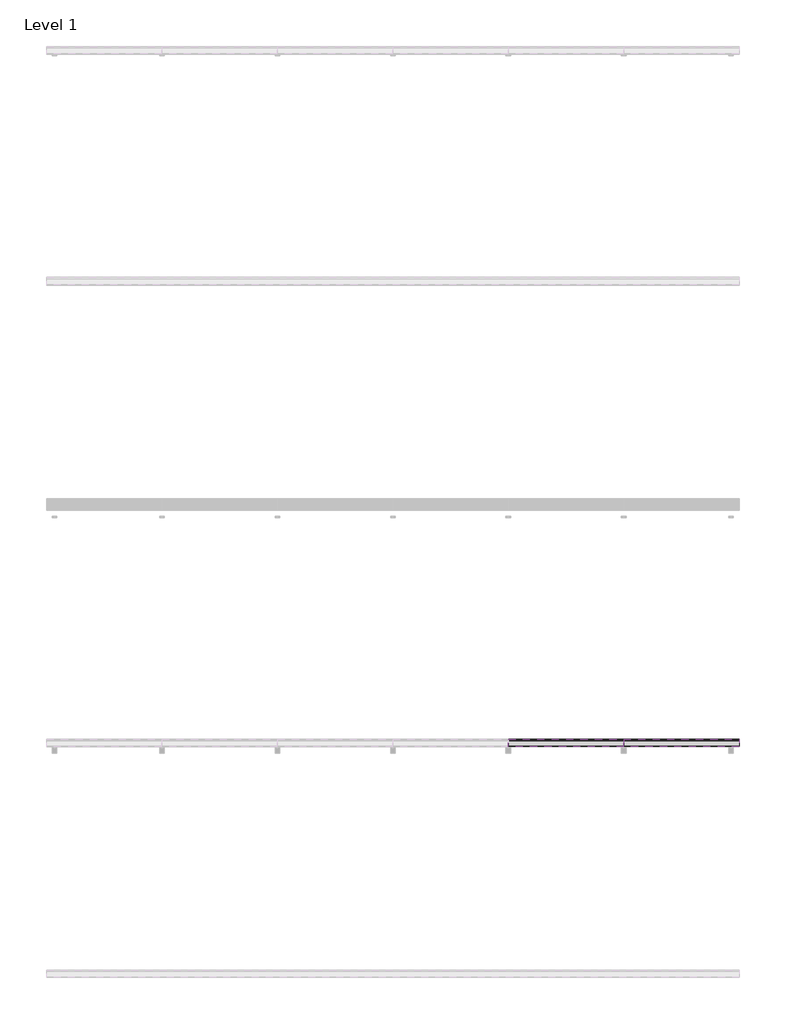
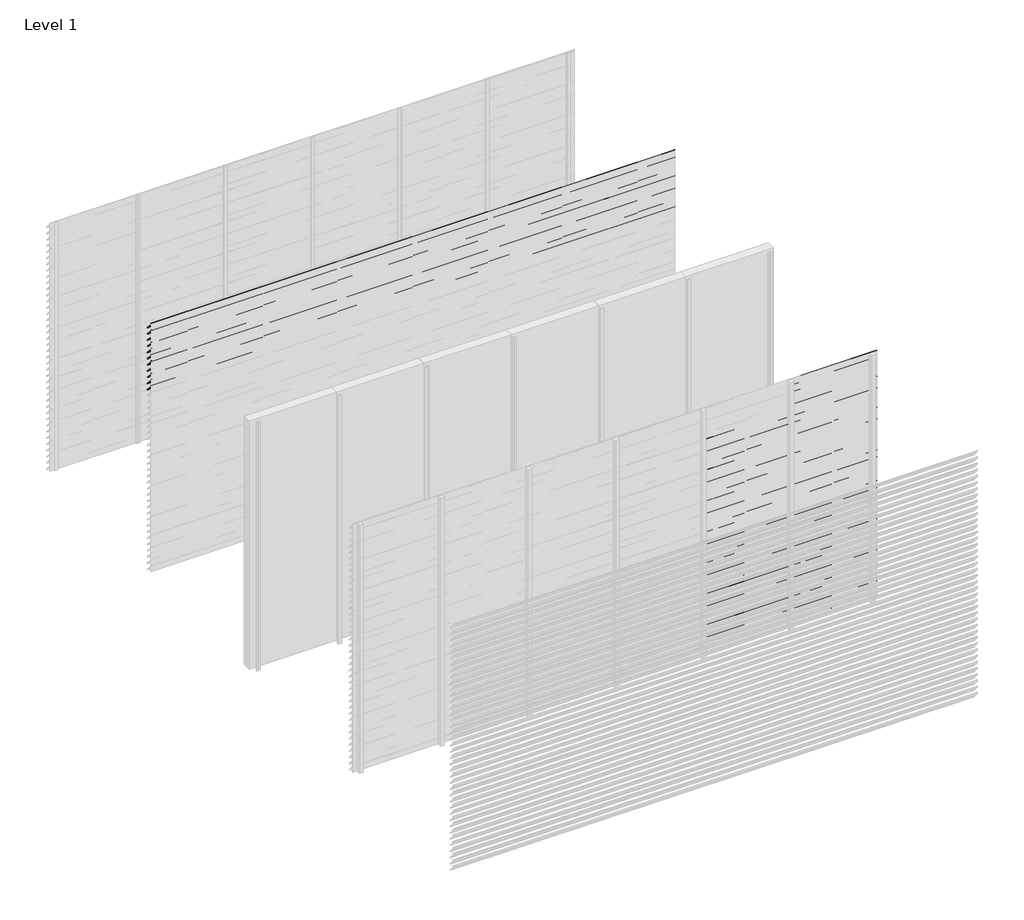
# One storey, part 19 of 35: 86 proxies.
"""IFC4 building model written with IfcOpenShell, lengths in millimetres."""

from ifc_helpers import new_model, si_unit, frame, origin, place, context, project, spatial, polyline, outline, extrude, element, save

model = new_model("IFC4")

# Units and contexts
model_context = context("Model", 3, world=origin())
ifc_project = project(units=[si_unit("LENGTHUNIT", "METRE", prefix="MILLI")], contexts=[model_context])

# Site, building, storey
site = spatial("IfcSite", under=ifc_project)
building = spatial("IfcBuilding", under=site)
storey = spatial("IfcBuildingStorey", under=building, Name="Level 1", Elevation=0.0)

# Proxies
placement = place(None, origin())
element("IfcBuildingElementProxy", 1, Name="Wall Sweeps", at=placement, inside=storey, context=model_context, shape_type="SweptSolid", body=[
    extrude(outline(polyline([(-25996.5, 3000.0), (-25996.5, 2985.5463701), (-25934.5, 2913.9330051), (-25934.5, 2910.4), (-25936.0, 2910.4), (-25936.0, 2913.3738975), (-25998.0, 2984.9872626), (-25998.0, 3000.0), (-25996.5, 3000.0)])), frame((0.0, 0.0, 0.0), z_axis=(1.0, 0.0, 0.0), x_axis=(0.0, 1.0, 0.0)), (0.0, 0.0, 1.0), 6000.0),
])
element("IfcBuildingElementProxy", 2, Name="Wall Sweeps", at=placement, inside=storey, context=model_context, shape_type="SweptSolid", body=[
    extrude(outline(polyline([(-25996.5, 2925.0), (-25996.5, 2910.5463701), (-25934.5, 2838.9330051), (-25934.5, 2835.4), (-25936.0, 2835.4), (-25936.0, 2838.3738975), (-25998.0, 2909.9872626), (-25998.0, 2925.0), (-25996.5, 2925.0)])), frame((0.0, 0.0, 0.0), z_axis=(1.0, 0.0, 0.0), x_axis=(0.0, 1.0, 0.0)), (0.0, 0.0, 1.0), 6000.0),
])
element("IfcBuildingElementProxy", 3, Name="Wall Sweeps", at=placement, inside=storey, context=model_context, shape_type="SweptSolid", body=[
    extrude(outline(polyline([(-25996.5, 2850.0), (-25996.5, 2835.5463701), (-25934.5, 2763.9330051), (-25934.5, 2760.4), (-25936.0, 2760.4), (-25936.0, 2763.3738975), (-25998.0, 2834.9872626), (-25998.0, 2850.0), (-25996.5, 2850.0)])), frame((0.0, 0.0, 0.0), z_axis=(1.0, 0.0, 0.0), x_axis=(0.0, 1.0, 0.0)), (0.0, 0.0, 1.0), 6000.0),
])
element("IfcBuildingElementProxy", 4, Name="Wall Sweeps", at=placement, inside=storey, context=model_context, shape_type="SweptSolid", body=[
    extrude(outline(polyline([(-25996.5, 2775.0), (-25996.5, 2760.5463701), (-25934.5, 2688.9330051), (-25934.5, 2685.4), (-25936.0, 2685.4), (-25936.0, 2688.3738975), (-25998.0, 2759.9872626), (-25998.0, 2775.0), (-25996.5, 2775.0)])), frame((0.0, 0.0, 0.0), z_axis=(1.0, 0.0, 0.0), x_axis=(0.0, 1.0, 0.0)), (0.0, 0.0, 1.0), 6000.0),
])
element("IfcBuildingElementProxy", 5, Name="Wall Sweeps", at=placement, inside=storey, context=model_context, shape_type="SweptSolid", body=[
    extrude(outline(polyline([(-25996.5, 2700.0), (-25996.5, 2685.5463701), (-25934.5, 2613.9330051), (-25934.5, 2610.4), (-25936.0, 2610.4), (-25936.0, 2613.3738975), (-25998.0, 2684.9872626), (-25998.0, 2700.0), (-25996.5, 2700.0)])), frame((0.0, 0.0, 0.0), z_axis=(1.0, 0.0, 0.0), x_axis=(0.0, 1.0, 0.0)), (0.0, 0.0, 1.0), 6000.0),
])
element("IfcBuildingElementProxy", 6, Name="Wall Sweeps", at=placement, inside=storey, context=model_context, shape_type="SweptSolid", body=[
    extrude(outline(polyline([(-25996.5, 2625.0), (-25996.5, 2610.5463701), (-25934.5, 2538.9330051), (-25934.5, 2535.4), (-25936.0, 2535.4), (-25936.0, 2538.3738975), (-25998.0, 2609.9872626), (-25998.0, 2625.0), (-25996.5, 2625.0)])), frame((0.0, 0.0, 0.0), z_axis=(1.0, 0.0, 0.0), x_axis=(0.0, 1.0, 0.0)), (0.0, 0.0, 1.0), 6000.0),
])
element("IfcBuildingElementProxy", 7, Name="Wall Sweeps", at=placement, inside=storey, context=model_context, shape_type="SweptSolid", body=[
    extrude(outline(polyline([(-25996.5, 2550.0), (-25996.5, 2535.5463701), (-25934.5, 2463.9330051), (-25934.5, 2460.4), (-25936.0, 2460.4), (-25936.0, 2463.3738975), (-25998.0, 2534.9872626), (-25998.0, 2550.0), (-25996.5, 2550.0)])), frame((0.0, 0.0, 0.0), z_axis=(1.0, 0.0, 0.0), x_axis=(0.0, 1.0, 0.0)), (0.0, 0.0, 1.0), 6000.0),
])
element("IfcBuildingElementProxy", 8, Name="Wall Sweeps", at=placement, inside=storey, context=model_context, shape_type="SweptSolid", body=[
    extrude(outline(polyline([(-25996.5, 2475.0), (-25996.5, 2460.5463701), (-25934.5, 2388.9330051), (-25934.5, 2385.4), (-25936.0, 2385.4), (-25936.0, 2388.3738975), (-25998.0, 2459.9872626), (-25998.0, 2475.0), (-25996.5, 2475.0)])), frame((0.0, 0.0, 0.0), z_axis=(1.0, 0.0, 0.0), x_axis=(0.0, 1.0, 0.0)), (0.0, 0.0, 1.0), 6000.0),
])
element("IfcBuildingElementProxy", 9, Name="Wall Sweeps", at=placement, inside=storey, context=model_context, shape_type="SweptSolid", body=[
    extrude(outline(polyline([(-25996.5, 2400.0), (-25996.5, 2385.5463701), (-25934.5, 2313.9330051), (-25934.5, 2310.4), (-25936.0, 2310.4), (-25936.0, 2313.3738975), (-25998.0, 2384.9872626), (-25998.0, 2400.0), (-25996.5, 2400.0)])), frame((0.0, 0.0, 0.0), z_axis=(1.0, 0.0, 0.0), x_axis=(0.0, 1.0, 0.0)), (0.0, 0.0, 1.0), 6000.0),
])
element("IfcBuildingElementProxy", 10, Name="Wall Sweeps", at=placement, inside=storey, context=model_context, shape_type="SweptSolid", body=[
    extrude(outline(polyline([(-25996.5, 2325.0), (-25996.5, 2310.5463701), (-25934.5, 2238.9330051), (-25934.5, 2235.4), (-25936.0, 2235.4), (-25936.0, 2238.3738975), (-25998.0, 2309.9872626), (-25998.0, 2325.0), (-25996.5, 2325.0)])), frame((0.0, 0.0, 0.0), z_axis=(1.0, 0.0, 0.0), x_axis=(0.0, 1.0, 0.0)), (0.0, 0.0, 1.0), 6000.0),
])
element("IfcBuildingElementProxy", 11, Name="Wall Sweeps", at=placement, inside=storey, context=model_context, shape_type="SweptSolid", body=[
    extrude(outline(polyline([(-25996.5, 2250.0), (-25996.5, 2235.5463701), (-25934.5, 2163.9330051), (-25934.5, 2160.4), (-25936.0, 2160.4), (-25936.0, 2163.3738975), (-25998.0, 2234.9872626), (-25998.0, 2250.0), (-25996.5, 2250.0)])), frame((0.0, 0.0, 0.0), z_axis=(1.0, 0.0, 0.0), x_axis=(0.0, 1.0, 0.0)), (0.0, 0.0, 1.0), 6000.0),
])
element("IfcBuildingElementProxy", 12, Name="Wall Sweeps", at=placement, inside=storey, context=model_context, shape_type="SweptSolid", body=[
    extrude(outline(polyline([(-29996.5, 2625.0), (-29996.5, 2610.5463701), (-29934.5, 2538.9330051), (-29934.5, 2535.4), (-29936.0, 2535.4), (-29936.0, 2538.3738975), (-29998.0, 2609.9872626), (-29998.0, 2625.0), (-29996.5, 2625.0)])), frame((4000.0, 0.0, 0.0), z_axis=(1.0, 0.0, 0.0), x_axis=(0.0, 1.0, 0.0)), (0.0, 0.0, 1.0), 1000.0),
])
element("IfcBuildingElementProxy", 13, Name="Wall Sweeps", at=placement, inside=storey, context=model_context, shape_type="SweptSolid", body=[
    extrude(outline(polyline([(-29996.5, 2550.0), (-29996.5, 2535.5463701), (-29934.5, 2463.9330051), (-29934.5, 2460.4), (-29936.0, 2460.4), (-29936.0, 2463.3738975), (-29998.0, 2534.9872626), (-29998.0, 2550.0), (-29996.5, 2550.0)])), frame((4000.0, 0.0, 0.0), z_axis=(1.0, 0.0, 0.0), x_axis=(0.0, 1.0, 0.0)), (0.0, 0.0, 1.0), 1000.0),
])
element("IfcBuildingElementProxy", 14, Name="Wall Sweeps", at=placement, inside=storey, context=model_context, shape_type="SweptSolid", body=[
    extrude(outline(polyline([(-29996.5, 2475.0), (-29996.5, 2460.5463701), (-29934.5, 2388.9330051), (-29934.5, 2385.4), (-29936.0, 2385.4), (-29936.0, 2388.3738975), (-29998.0, 2459.9872626), (-29998.0, 2475.0), (-29996.5, 2475.0)])), frame((4000.0, 0.0, 0.0), z_axis=(1.0, 0.0, 0.0), x_axis=(0.0, 1.0, 0.0)), (0.0, 0.0, 1.0), 1000.0),
])
element("IfcBuildingElementProxy", 15, Name="Wall Sweeps", at=placement, inside=storey, context=model_context, shape_type="SweptSolid", body=[
    extrude(outline(polyline([(-29996.5, 2400.0), (-29996.5, 2385.5463701), (-29934.5, 2313.9330051), (-29934.5, 2310.4), (-29936.0, 2310.4), (-29936.0, 2313.3738975), (-29998.0, 2384.9872626), (-29998.0, 2400.0), (-29996.5, 2400.0)])), frame((4000.0, 0.0, 0.0), z_axis=(1.0, 0.0, 0.0), x_axis=(0.0, 1.0, 0.0)), (0.0, 0.0, 1.0), 1000.0),
])
element("IfcBuildingElementProxy", 16, Name="Wall Sweeps", at=placement, inside=storey, context=model_context, shape_type="SweptSolid", body=[
    extrude(outline(polyline([(-29996.5, 2325.0), (-29996.5, 2310.5463701), (-29934.5, 2238.9330051), (-29934.5, 2235.4), (-29936.0, 2235.4), (-29936.0, 2238.3738975), (-29998.0, 2309.9872626), (-29998.0, 2325.0), (-29996.5, 2325.0)])), frame((4000.0, 0.0, 0.0), z_axis=(1.0, 0.0, 0.0), x_axis=(0.0, 1.0, 0.0)), (0.0, 0.0, 1.0), 1000.0),
])
element("IfcBuildingElementProxy", 17, Name="Wall Sweeps", at=placement, inside=storey, context=model_context, shape_type="SweptSolid", body=[
    extrude(outline(polyline([(-29996.5, 2250.0), (-29996.5, 2235.5463701), (-29934.5, 2163.9330051), (-29934.5, 2160.4), (-29936.0, 2160.4), (-29936.0, 2163.3738975), (-29998.0, 2234.9872626), (-29998.0, 2250.0), (-29996.5, 2250.0)])), frame((4000.0, 0.0, 0.0), z_axis=(1.0, 0.0, 0.0), x_axis=(0.0, 1.0, 0.0)), (0.0, 0.0, 1.0), 1000.0),
])
element("IfcBuildingElementProxy", 18, Name="Wall Sweeps", at=placement, inside=storey, context=model_context, shape_type="SweptSolid", body=[
    extrude(outline(polyline([(-29996.5, 2175.0), (-29996.5, 2160.5463701), (-29934.5, 2088.9330051), (-29934.5, 2085.4), (-29936.0, 2085.4), (-29936.0, 2088.3738975), (-29998.0, 2159.9872626), (-29998.0, 2175.0), (-29996.5, 2175.0)])), frame((4000.0, 0.0, 0.0), z_axis=(1.0, 0.0, 0.0), x_axis=(0.0, 1.0, 0.0)), (0.0, 0.0, 1.0), 1000.0),
])
element("IfcBuildingElementProxy", 19, Name="Wall Sweeps", at=placement, inside=storey, context=model_context, shape_type="SweptSolid", body=[
    extrude(outline(polyline([(-29996.5, 2100.0), (-29996.5, 2085.5463701), (-29934.5, 2013.9330051), (-29934.5, 2010.4), (-29936.0, 2010.4), (-29936.0, 2013.3738975), (-29998.0, 2084.9872626), (-29998.0, 2100.0), (-29996.5, 2100.0)])), frame((4000.0, 0.0, 0.0), z_axis=(1.0, 0.0, 0.0), x_axis=(0.0, 1.0, 0.0)), (0.0, 0.0, 1.0), 1000.0),
])
element("IfcBuildingElementProxy", 20, Name="Wall Sweeps", at=placement, inside=storey, context=model_context, shape_type="SweptSolid", body=[
    extrude(outline(polyline([(-29996.5, 2025.0), (-29996.5, 2010.5463701), (-29934.5, 1938.9330051), (-29934.5, 1935.4), (-29936.0, 1935.4), (-29936.0, 1938.3738975), (-29998.0, 2009.9872626), (-29998.0, 2025.0), (-29996.5, 2025.0)])), frame((4000.0, 0.0, 0.0), z_axis=(1.0, 0.0, 0.0), x_axis=(0.0, 1.0, 0.0)), (0.0, 0.0, 1.0), 1000.0),
])
element("IfcBuildingElementProxy", 21, Name="Wall Sweeps", at=placement, inside=storey, context=model_context, shape_type="SweptSolid", body=[
    extrude(outline(polyline([(-29996.5, 1950.0), (-29996.5, 1935.5463701), (-29934.5, 1863.9330051), (-29934.5, 1860.4), (-29936.0, 1860.4), (-29936.0, 1863.3738975), (-29998.0, 1934.9872626), (-29998.0, 1950.0), (-29996.5, 1950.0)])), frame((4000.0, 0.0, 0.0), z_axis=(1.0, 0.0, 0.0), x_axis=(0.0, 1.0, 0.0)), (0.0, 0.0, 1.0), 1000.0),
])
element("IfcBuildingElementProxy", 22, Name="Wall Sweeps", at=placement, inside=storey, context=model_context, shape_type="SweptSolid", body=[
    extrude(outline(polyline([(-29996.5, 1875.0), (-29996.5, 1860.5463701), (-29934.5, 1788.9330051), (-29934.5, 1785.4), (-29936.0, 1785.4), (-29936.0, 1788.3738975), (-29998.0, 1859.9872626), (-29998.0, 1875.0), (-29996.5, 1875.0)])), frame((4000.0, 0.0, 0.0), z_axis=(1.0, 0.0, 0.0), x_axis=(0.0, 1.0, 0.0)), (0.0, 0.0, 1.0), 1000.0),
])
element("IfcBuildingElementProxy", 23, Name="Wall Sweeps", at=placement, inside=storey, context=model_context, shape_type="SweptSolid", body=[
    extrude(outline(polyline([(-29996.5, 1800.0), (-29996.5, 1785.5463701), (-29934.5, 1713.9330051), (-29934.5, 1710.4), (-29936.0, 1710.4), (-29936.0, 1713.3738975), (-29998.0, 1784.9872626), (-29998.0, 1800.0), (-29996.5, 1800.0)])), frame((4000.0, 0.0, 0.0), z_axis=(1.0, 0.0, 0.0), x_axis=(0.0, 1.0, 0.0)), (0.0, 0.0, 1.0), 1000.0),
])
element("IfcBuildingElementProxy", 24, Name="Wall Sweeps", at=placement, inside=storey, context=model_context, shape_type="SweptSolid", body=[
    extrude(outline(polyline([(-29996.5, 1725.0), (-29996.5, 1710.5463701), (-29934.5, 1638.9330051), (-29934.5, 1635.4), (-29936.0, 1635.4), (-29936.0, 1638.3738975), (-29998.0, 1709.9872626), (-29998.0, 1725.0), (-29996.5, 1725.0)])), frame((4000.0, 0.0, 0.0), z_axis=(1.0, 0.0, 0.0), x_axis=(0.0, 1.0, 0.0)), (0.0, 0.0, 1.0), 1000.0),
])
element("IfcBuildingElementProxy", 25, Name="Wall Sweeps", at=placement, inside=storey, context=model_context, shape_type="SweptSolid", body=[
    extrude(outline(polyline([(-29996.5, 1650.0), (-29996.5, 1635.5463701), (-29934.5, 1563.9330051), (-29934.5, 1560.4), (-29936.0, 1560.4), (-29936.0, 1563.3738975), (-29998.0, 1634.9872626), (-29998.0, 1650.0), (-29996.5, 1650.0)])), frame((4000.0, 0.0, 0.0), z_axis=(1.0, 0.0, 0.0), x_axis=(0.0, 1.0, 0.0)), (0.0, 0.0, 1.0), 1000.0),
])
element("IfcBuildingElementProxy", 26, Name="Wall Sweeps", at=placement, inside=storey, context=model_context, shape_type="SweptSolid", body=[
    extrude(outline(polyline([(-29996.5, 1575.0), (-29996.5, 1560.5463701), (-29934.5, 1488.9330051), (-29934.5, 1485.4), (-29936.0, 1485.4), (-29936.0, 1488.3738975), (-29998.0, 1559.9872626), (-29998.0, 1575.0), (-29996.5, 1575.0)])), frame((4000.0, 0.0, 0.0), z_axis=(1.0, 0.0, 0.0), x_axis=(0.0, 1.0, 0.0)), (0.0, 0.0, 1.0), 1000.0),
])
element("IfcBuildingElementProxy", 27, Name="Wall Sweeps", at=placement, inside=storey, context=model_context, shape_type="SweptSolid", body=[
    extrude(outline(polyline([(-29996.5, 1500.0), (-29996.5, 1485.5463701), (-29934.5, 1413.9330051), (-29934.5, 1410.4), (-29936.0, 1410.4), (-29936.0, 1413.3738975), (-29998.0, 1484.9872626), (-29998.0, 1500.0), (-29996.5, 1500.0)])), frame((4000.0, 0.0, 0.0), z_axis=(1.0, 0.0, 0.0), x_axis=(0.0, 1.0, 0.0)), (0.0, 0.0, 1.0), 1000.0),
])
element("IfcBuildingElementProxy", 28, Name="Wall Sweeps", at=placement, inside=storey, context=model_context, shape_type="SweptSolid", body=[
    extrude(outline(polyline([(-29996.5, 1425.0), (-29996.5, 1410.5463701), (-29934.5, 1338.9330051), (-29934.5, 1335.4), (-29936.0, 1335.4), (-29936.0, 1338.3738975), (-29998.0, 1409.9872626), (-29998.0, 1425.0), (-29996.5, 1425.0)])), frame((4000.0, 0.0, 0.0), z_axis=(1.0, 0.0, 0.0), x_axis=(0.0, 1.0, 0.0)), (0.0, 0.0, 1.0), 1000.0),
])
element("IfcBuildingElementProxy", 29, Name="Wall Sweeps", at=placement, inside=storey, context=model_context, shape_type="SweptSolid", body=[
    extrude(outline(polyline([(-29996.5, 1350.0), (-29996.5, 1335.5463701), (-29934.5, 1263.9330051), (-29934.5, 1260.4), (-29936.0, 1260.4), (-29936.0, 1263.3738975), (-29998.0, 1334.9872626), (-29998.0, 1350.0), (-29996.5, 1350.0)])), frame((4000.0, 0.0, 0.0), z_axis=(1.0, 0.0, 0.0), x_axis=(0.0, 1.0, 0.0)), (0.0, 0.0, 1.0), 1000.0),
])
element("IfcBuildingElementProxy", 30, Name="Wall Sweeps", at=placement, inside=storey, context=model_context, shape_type="SweptSolid", body=[
    extrude(outline(polyline([(-29996.5, 1275.0), (-29996.5, 1260.5463701), (-29934.5, 1188.9330051), (-29934.5, 1185.4), (-29936.0, 1185.4), (-29936.0, 1188.3738975), (-29998.0, 1259.9872626), (-29998.0, 1275.0), (-29996.5, 1275.0)])), frame((4000.0, 0.0, 0.0), z_axis=(1.0, 0.0, 0.0), x_axis=(0.0, 1.0, 0.0)), (0.0, 0.0, 1.0), 1000.0),
])
element("IfcBuildingElementProxy", 31, Name="Wall Sweeps", at=placement, inside=storey, context=model_context, shape_type="SweptSolid", body=[
    extrude(outline(polyline([(-29996.5, 1200.0), (-29996.5, 1185.5463701), (-29934.5, 1113.9330051), (-29934.5, 1110.4), (-29936.0, 1110.4), (-29936.0, 1113.3738975), (-29998.0, 1184.9872626), (-29998.0, 1200.0), (-29996.5, 1200.0)])), frame((4000.0, 0.0, 0.0), z_axis=(1.0, 0.0, 0.0), x_axis=(0.0, 1.0, 0.0)), (0.0, 0.0, 1.0), 1000.0),
])
element("IfcBuildingElementProxy", 32, Name="Wall Sweeps", at=placement, inside=storey, context=model_context, shape_type="SweptSolid", body=[
    extrude(outline(polyline([(-29996.5, 1125.0), (-29996.5, 1110.5463701), (-29934.5, 1038.9330051), (-29934.5, 1035.4), (-29936.0, 1035.4), (-29936.0, 1038.3738975), (-29998.0, 1109.9872626), (-29998.0, 1125.0), (-29996.5, 1125.0)])), frame((4000.0, 0.0, 0.0), z_axis=(1.0, 0.0, 0.0), x_axis=(0.0, 1.0, 0.0)), (0.0, 0.0, 1.0), 1000.0),
])
element("IfcBuildingElementProxy", 33, Name="Wall Sweeps", at=placement, inside=storey, context=model_context, shape_type="SweptSolid", body=[
    extrude(outline(polyline([(-29996.5, 1050.0), (-29996.5, 1035.5463701), (-29934.5, 963.9330051), (-29934.5, 960.4), (-29936.0, 960.4), (-29936.0, 963.3738975), (-29998.0, 1034.9872626), (-29998.0, 1050.0), (-29996.5, 1050.0)])), frame((4000.0, 0.0, 0.0), z_axis=(1.0, 0.0, 0.0), x_axis=(0.0, 1.0, 0.0)), (0.0, 0.0, 1.0), 1000.0),
])
element("IfcBuildingElementProxy", 34, Name="Wall Sweeps", at=placement, inside=storey, context=model_context, shape_type="SweptSolid", body=[
    extrude(outline(polyline([(-29996.5, 975.0), (-29996.5, 960.5463701), (-29934.5, 888.9330051), (-29934.5, 885.4), (-29936.0, 885.4), (-29936.0, 888.3738975), (-29998.0, 959.9872626), (-29998.0, 975.0), (-29996.5, 975.0)])), frame((4000.0, 0.0, 0.0), z_axis=(1.0, 0.0, 0.0), x_axis=(0.0, 1.0, 0.0)), (0.0, 0.0, 1.0), 1000.0),
])
element("IfcBuildingElementProxy", 35, Name="Wall Sweeps", at=placement, inside=storey, context=model_context, shape_type="SweptSolid", body=[
    extrude(outline(polyline([(-29996.5, 900.0), (-29996.5, 885.5463701), (-29934.5, 813.9330051), (-29934.5, 810.4), (-29936.0, 810.4), (-29936.0, 813.3738975), (-29998.0, 884.9872626), (-29998.0, 900.0), (-29996.5, 900.0)])), frame((4000.0, 0.0, 0.0), z_axis=(1.0, 0.0, 0.0), x_axis=(0.0, 1.0, 0.0)), (0.0, 0.0, 1.0), 1000.0),
])
element("IfcBuildingElementProxy", 36, Name="Wall Sweeps", at=placement, inside=storey, context=model_context, shape_type="SweptSolid", body=[
    extrude(outline(polyline([(-29996.5, 825.0), (-29996.5, 810.5463701), (-29934.5, 738.9330051), (-29934.5, 735.4), (-29936.0, 735.4), (-29936.0, 738.3738975), (-29998.0, 809.9872626), (-29998.0, 825.0), (-29996.5, 825.0)])), frame((4000.0, 0.0, 0.0), z_axis=(1.0, 0.0, 0.0), x_axis=(0.0, 1.0, 0.0)), (0.0, 0.0, 1.0), 1000.0),
])
element("IfcBuildingElementProxy", 37, Name="Wall Sweeps", at=placement, inside=storey, context=model_context, shape_type="SweptSolid", body=[
    extrude(outline(polyline([(-29996.5, 750.0), (-29996.5, 735.5463701), (-29934.5, 663.9330051), (-29934.5, 660.4), (-29936.0, 660.4), (-29936.0, 663.3738975), (-29998.0, 734.9872626), (-29998.0, 750.0), (-29996.5, 750.0)])), frame((4000.0, 0.0, 0.0), z_axis=(1.0, 0.0, 0.0), x_axis=(0.0, 1.0, 0.0)), (0.0, 0.0, 1.0), 1000.0),
])
element("IfcBuildingElementProxy", 38, Name="Wall Sweeps", at=placement, inside=storey, context=model_context, shape_type="SweptSolid", body=[
    extrude(outline(polyline([(-29996.5, 675.0), (-29996.5, 660.5463701), (-29934.5, 588.9330051), (-29934.5, 585.4), (-29936.0, 585.4), (-29936.0, 588.3738975), (-29998.0, 659.9872626), (-29998.0, 675.0), (-29996.5, 675.0)])), frame((4000.0, 0.0, 0.0), z_axis=(1.0, 0.0, 0.0), x_axis=(0.0, 1.0, 0.0)), (0.0, 0.0, 1.0), 1000.0),
])
element("IfcBuildingElementProxy", 39, Name="Wall Sweeps", at=placement, inside=storey, context=model_context, shape_type="SweptSolid", body=[
    extrude(outline(polyline([(-29996.5, 600.0), (-29996.5, 585.5463701), (-29934.5, 513.9330051), (-29934.5, 510.4), (-29936.0, 510.4), (-29936.0, 513.3738975), (-29998.0, 584.9872626), (-29998.0, 600.0), (-29996.5, 600.0)])), frame((4000.0, 0.0, 0.0), z_axis=(1.0, 0.0, 0.0), x_axis=(0.0, 1.0, 0.0)), (0.0, 0.0, 1.0), 1000.0),
])
element("IfcBuildingElementProxy", 40, Name="Wall Sweeps", at=placement, inside=storey, context=model_context, shape_type="SweptSolid", body=[
    extrude(outline(polyline([(-29996.5, 525.0), (-29996.5, 510.5463701), (-29934.5, 438.9330051), (-29934.5, 435.4), (-29936.0, 435.4), (-29936.0, 438.3738975), (-29998.0, 509.9872626), (-29998.0, 525.0), (-29996.5, 525.0)])), frame((4000.0, 0.0, 0.0), z_axis=(1.0, 0.0, 0.0), x_axis=(0.0, 1.0, 0.0)), (0.0, 0.0, 1.0), 1000.0),
])
element("IfcBuildingElementProxy", 41, Name="Wall Sweeps", at=placement, inside=storey, context=model_context, shape_type="SweptSolid", body=[
    extrude(outline(polyline([(-29996.5, 450.0), (-29996.5, 435.5463701), (-29934.5, 363.9330051), (-29934.5, 360.4), (-29936.0, 360.4), (-29936.0, 363.3738975), (-29998.0, 434.9872626), (-29998.0, 450.0), (-29996.5, 450.0)])), frame((4000.0, 0.0, 0.0), z_axis=(1.0, 0.0, 0.0), x_axis=(0.0, 1.0, 0.0)), (0.0, 0.0, 1.0), 1000.0),
])
element("IfcBuildingElementProxy", 42, Name="Wall Sweeps", at=placement, inside=storey, context=model_context, shape_type="SweptSolid", body=[
    extrude(outline(polyline([(-29996.5, 375.0), (-29996.5, 360.5463701), (-29934.5, 288.9330051), (-29934.5, 285.4), (-29936.0, 285.4), (-29936.0, 288.3738975), (-29998.0, 359.9872626), (-29998.0, 375.0), (-29996.5, 375.0)])), frame((4000.0, 0.0, 0.0), z_axis=(1.0, 0.0, 0.0), x_axis=(0.0, 1.0, 0.0)), (0.0, 0.0, 1.0), 1000.0),
])
element("IfcBuildingElementProxy", 43, Name="Wall Sweeps", at=placement, inside=storey, context=model_context, shape_type="SweptSolid", body=[
    extrude(outline(polyline([(-29996.5, 300.0), (-29996.5, 285.5463701), (-29934.5, 213.9330051), (-29934.5, 210.4), (-29936.0, 210.4), (-29936.0, 213.3738975), (-29998.0, 284.9872626), (-29998.0, 300.0), (-29996.5, 300.0)])), frame((4000.0, 0.0, 0.0), z_axis=(1.0, 0.0, 0.0), x_axis=(0.0, 1.0, 0.0)), (0.0, 0.0, 1.0), 1000.0),
])
element("IfcBuildingElementProxy", 44, Name="Wall Sweeps", at=placement, inside=storey, context=model_context, shape_type="SweptSolid", body=[
    extrude(outline(polyline([(-29996.5, 225.0), (-29996.5, 210.5463701), (-29934.5, 138.9330051), (-29934.5, 135.4), (-29936.0, 135.4), (-29936.0, 138.3738975), (-29998.0, 209.9872626), (-29998.0, 225.0), (-29996.5, 225.0)])), frame((4000.0, 0.0, 0.0), z_axis=(1.0, 0.0, 0.0), x_axis=(0.0, 1.0, 0.0)), (0.0, 0.0, 1.0), 1000.0),
])
element("IfcBuildingElementProxy", 45, Name="Wall Sweeps", at=placement, inside=storey, context=model_context, shape_type="SweptSolid", body=[
    extrude(outline(polyline([(-29996.5, 150.0), (-29996.5, 135.5463701), (-29934.5, 63.9330051), (-29934.5, 60.4), (-29936.0, 60.4), (-29936.0, 63.3738975), (-29998.0, 134.9872626), (-29998.0, 150.0), (-29996.5, 150.0)])), frame((4000.0, 0.0, 0.0), z_axis=(1.0, 0.0, 0.0), x_axis=(0.0, 1.0, 0.0)), (0.0, 0.0, 1.0), 1000.0),
])
element("IfcBuildingElementProxy", 46, Name="Wall Sweeps", at=placement, inside=storey, context=model_context, shape_type="SweptSolid", body=[
    extrude(outline(polyline([(-29996.5, 75.0), (-29996.5, 60.5463701), (-29934.5, -11.0669949), (-29934.5, -14.6), (-29936.0, -14.6), (-29936.0, -11.6261025), (-29998.0, 59.9872626), (-29998.0, 75.0), (-29996.5, 75.0)])), frame((4000.0, 0.0, 0.0), z_axis=(1.0, 0.0, 0.0), x_axis=(0.0, 1.0, 0.0)), (0.0, 0.0, 1.0), 1000.0),
])
element("IfcBuildingElementProxy", 47, Name="Wall Sweeps", at=placement, inside=storey, context=model_context, shape_type="SweptSolid", body=[
    extrude(outline(polyline([(-29996.5, 3000.0), (-29996.5, 2985.5463701), (-29934.5, 2913.9330051), (-29934.5, 2910.4), (-29936.0, 2910.4), (-29936.0, 2913.3738975), (-29998.0, 2984.9872626), (-29998.0, 3000.0), (-29996.5, 3000.0)])), frame((5000.0, 0.0, 0.0), z_axis=(1.0, 0.0, 0.0), x_axis=(0.0, 1.0, 0.0)), (0.0, 0.0, 1.0), 1000.0),
])
element("IfcBuildingElementProxy", 48, Name="Wall Sweeps", at=placement, inside=storey, context=model_context, shape_type="SweptSolid", body=[
    extrude(outline(polyline([(-29996.5, 2925.0), (-29996.5, 2910.5463701), (-29934.5, 2838.9330051), (-29934.5, 2835.4), (-29936.0, 2835.4), (-29936.0, 2838.3738975), (-29998.0, 2909.9872626), (-29998.0, 2925.0), (-29996.5, 2925.0)])), frame((5000.0, 0.0, 0.0), z_axis=(1.0, 0.0, 0.0), x_axis=(0.0, 1.0, 0.0)), (0.0, 0.0, 1.0), 1000.0),
])
element("IfcBuildingElementProxy", 49, Name="Wall Sweeps", at=placement, inside=storey, context=model_context, shape_type="SweptSolid", body=[
    extrude(outline(polyline([(-29996.5, 2850.0), (-29996.5, 2835.5463701), (-29934.5, 2763.9330051), (-29934.5, 2760.4), (-29936.0, 2760.4), (-29936.0, 2763.3738975), (-29998.0, 2834.9872626), (-29998.0, 2850.0), (-29996.5, 2850.0)])), frame((5000.0, 0.0, 0.0), z_axis=(1.0, 0.0, 0.0), x_axis=(0.0, 1.0, 0.0)), (0.0, 0.0, 1.0), 1000.0),
])
element("IfcBuildingElementProxy", 50, Name="Wall Sweeps", at=placement, inside=storey, context=model_context, shape_type="SweptSolid", body=[
    extrude(outline(polyline([(-29996.5, 2775.0), (-29996.5, 2760.5463701), (-29934.5, 2688.9330051), (-29934.5, 2685.4), (-29936.0, 2685.4), (-29936.0, 2688.3738975), (-29998.0, 2759.9872626), (-29998.0, 2775.0), (-29996.5, 2775.0)])), frame((5000.0, 0.0, 0.0), z_axis=(1.0, 0.0, 0.0), x_axis=(0.0, 1.0, 0.0)), (0.0, 0.0, 1.0), 1000.0),
])
element("IfcBuildingElementProxy", 51, Name="Wall Sweeps", at=placement, inside=storey, context=model_context, shape_type="SweptSolid", body=[
    extrude(outline(polyline([(-29996.5, 2700.0), (-29996.5, 2685.5463701), (-29934.5, 2613.9330051), (-29934.5, 2610.4), (-29936.0, 2610.4), (-29936.0, 2613.3738975), (-29998.0, 2684.9872626), (-29998.0, 2700.0), (-29996.5, 2700.0)])), frame((5000.0, 0.0, 0.0), z_axis=(1.0, 0.0, 0.0), x_axis=(0.0, 1.0, 0.0)), (0.0, 0.0, 1.0), 1000.0),
])
element("IfcBuildingElementProxy", 52, Name="Wall Sweeps", at=placement, inside=storey, context=model_context, shape_type="SweptSolid", body=[
    extrude(outline(polyline([(-29996.5, 2625.0), (-29996.5, 2610.5463701), (-29934.5, 2538.9330051), (-29934.5, 2535.4), (-29936.0, 2535.4), (-29936.0, 2538.3738975), (-29998.0, 2609.9872626), (-29998.0, 2625.0), (-29996.5, 2625.0)])), frame((5000.0, 0.0, 0.0), z_axis=(1.0, 0.0, 0.0), x_axis=(0.0, 1.0, 0.0)), (0.0, 0.0, 1.0), 1000.0),
])
element("IfcBuildingElementProxy", 53, Name="Wall Sweeps", at=placement, inside=storey, context=model_context, shape_type="SweptSolid", body=[
    extrude(outline(polyline([(-29996.5, 2550.0), (-29996.5, 2535.5463701), (-29934.5, 2463.9330051), (-29934.5, 2460.4), (-29936.0, 2460.4), (-29936.0, 2463.3738975), (-29998.0, 2534.9872626), (-29998.0, 2550.0), (-29996.5, 2550.0)])), frame((5000.0, 0.0, 0.0), z_axis=(1.0, 0.0, 0.0), x_axis=(0.0, 1.0, 0.0)), (0.0, 0.0, 1.0), 1000.0),
])
element("IfcBuildingElementProxy", 54, Name="Wall Sweeps", at=placement, inside=storey, context=model_context, shape_type="SweptSolid", body=[
    extrude(outline(polyline([(-29996.5, 2475.0), (-29996.5, 2460.5463701), (-29934.5, 2388.9330051), (-29934.5, 2385.4), (-29936.0, 2385.4), (-29936.0, 2388.3738975), (-29998.0, 2459.9872626), (-29998.0, 2475.0), (-29996.5, 2475.0)])), frame((5000.0, 0.0, 0.0), z_axis=(1.0, 0.0, 0.0), x_axis=(0.0, 1.0, 0.0)), (0.0, 0.0, 1.0), 1000.0),
])
element("IfcBuildingElementProxy", 55, Name="Wall Sweeps", at=placement, inside=storey, context=model_context, shape_type="SweptSolid", body=[
    extrude(outline(polyline([(-29996.5, 2400.0), (-29996.5, 2385.5463701), (-29934.5, 2313.9330051), (-29934.5, 2310.4), (-29936.0, 2310.4), (-29936.0, 2313.3738975), (-29998.0, 2384.9872626), (-29998.0, 2400.0), (-29996.5, 2400.0)])), frame((5000.0, 0.0, 0.0), z_axis=(1.0, 0.0, 0.0), x_axis=(0.0, 1.0, 0.0)), (0.0, 0.0, 1.0), 1000.0),
])
element("IfcBuildingElementProxy", 56, Name="Wall Sweeps", at=placement, inside=storey, context=model_context, shape_type="SweptSolid", body=[
    extrude(outline(polyline([(-29996.5, 2325.0), (-29996.5, 2310.5463701), (-29934.5, 2238.9330051), (-29934.5, 2235.4), (-29936.0, 2235.4), (-29936.0, 2238.3738975), (-29998.0, 2309.9872626), (-29998.0, 2325.0), (-29996.5, 2325.0)])), frame((5000.0, 0.0, 0.0), z_axis=(1.0, 0.0, 0.0), x_axis=(0.0, 1.0, 0.0)), (0.0, 0.0, 1.0), 1000.0),
])
element("IfcBuildingElementProxy", 57, Name="Wall Sweeps", at=placement, inside=storey, context=model_context, shape_type="SweptSolid", body=[
    extrude(outline(polyline([(-29996.5, 2250.0), (-29996.5, 2235.5463701), (-29934.5, 2163.9330051), (-29934.5, 2160.4), (-29936.0, 2160.4), (-29936.0, 2163.3738975), (-29998.0, 2234.9872626), (-29998.0, 2250.0), (-29996.5, 2250.0)])), frame((5000.0, 0.0, 0.0), z_axis=(1.0, 0.0, 0.0), x_axis=(0.0, 1.0, 0.0)), (0.0, 0.0, 1.0), 1000.0),
])
element("IfcBuildingElementProxy", 58, Name="Wall Sweeps", at=placement, inside=storey, context=model_context, shape_type="SweptSolid", body=[
    extrude(outline(polyline([(-29996.5, 2175.0), (-29996.5, 2160.5463701), (-29934.5, 2088.9330051), (-29934.5, 2085.4), (-29936.0, 2085.4), (-29936.0, 2088.3738975), (-29998.0, 2159.9872626), (-29998.0, 2175.0), (-29996.5, 2175.0)])), frame((5000.0, 0.0, 0.0), z_axis=(1.0, 0.0, 0.0), x_axis=(0.0, 1.0, 0.0)), (0.0, 0.0, 1.0), 1000.0),
])
element("IfcBuildingElementProxy", 59, Name="Wall Sweeps", at=placement, inside=storey, context=model_context, shape_type="SweptSolid", body=[
    extrude(outline(polyline([(-29996.5, 2100.0), (-29996.5, 2085.5463701), (-29934.5, 2013.9330051), (-29934.5, 2010.4), (-29936.0, 2010.4), (-29936.0, 2013.3738975), (-29998.0, 2084.9872626), (-29998.0, 2100.0), (-29996.5, 2100.0)])), frame((5000.0, 0.0, 0.0), z_axis=(1.0, 0.0, 0.0), x_axis=(0.0, 1.0, 0.0)), (0.0, 0.0, 1.0), 1000.0),
])
element("IfcBuildingElementProxy", 60, Name="Wall Sweeps", at=placement, inside=storey, context=model_context, shape_type="SweptSolid", body=[
    extrude(outline(polyline([(-29996.5, 2025.0), (-29996.5, 2010.5463701), (-29934.5, 1938.9330051), (-29934.5, 1935.4), (-29936.0, 1935.4), (-29936.0, 1938.3738975), (-29998.0, 2009.9872626), (-29998.0, 2025.0), (-29996.5, 2025.0)])), frame((5000.0, 0.0, 0.0), z_axis=(1.0, 0.0, 0.0), x_axis=(0.0, 1.0, 0.0)), (0.0, 0.0, 1.0), 1000.0),
])
element("IfcBuildingElementProxy", 61, Name="Wall Sweeps", at=placement, inside=storey, context=model_context, shape_type="SweptSolid", body=[
    extrude(outline(polyline([(-29996.5, 1950.0), (-29996.5, 1935.5463701), (-29934.5, 1863.9330051), (-29934.5, 1860.4), (-29936.0, 1860.4), (-29936.0, 1863.3738975), (-29998.0, 1934.9872626), (-29998.0, 1950.0), (-29996.5, 1950.0)])), frame((5000.0, 0.0, 0.0), z_axis=(1.0, 0.0, 0.0), x_axis=(0.0, 1.0, 0.0)), (0.0, 0.0, 1.0), 1000.0),
])
element("IfcBuildingElementProxy", 62, Name="Wall Sweeps", at=placement, inside=storey, context=model_context, shape_type="SweptSolid", body=[
    extrude(outline(polyline([(-29996.5, 1875.0), (-29996.5, 1860.5463701), (-29934.5, 1788.9330051), (-29934.5, 1785.4), (-29936.0, 1785.4), (-29936.0, 1788.3738975), (-29998.0, 1859.9872626), (-29998.0, 1875.0), (-29996.5, 1875.0)])), frame((5000.0, 0.0, 0.0), z_axis=(1.0, 0.0, 0.0), x_axis=(0.0, 1.0, 0.0)), (0.0, 0.0, 1.0), 1000.0),
])
element("IfcBuildingElementProxy", 63, Name="Wall Sweeps", at=placement, inside=storey, context=model_context, shape_type="SweptSolid", body=[
    extrude(outline(polyline([(-29996.5, 1800.0), (-29996.5, 1785.5463701), (-29934.5, 1713.9330051), (-29934.5, 1710.4), (-29936.0, 1710.4), (-29936.0, 1713.3738975), (-29998.0, 1784.9872626), (-29998.0, 1800.0), (-29996.5, 1800.0)])), frame((5000.0, 0.0, 0.0), z_axis=(1.0, 0.0, 0.0), x_axis=(0.0, 1.0, 0.0)), (0.0, 0.0, 1.0), 1000.0),
])
element("IfcBuildingElementProxy", 64, Name="Wall Sweeps", at=placement, inside=storey, context=model_context, shape_type="SweptSolid", body=[
    extrude(outline(polyline([(-29996.5, 1725.0), (-29996.5, 1710.5463701), (-29934.5, 1638.9330051), (-29934.5, 1635.4), (-29936.0, 1635.4), (-29936.0, 1638.3738975), (-29998.0, 1709.9872626), (-29998.0, 1725.0), (-29996.5, 1725.0)])), frame((5000.0, 0.0, 0.0), z_axis=(1.0, 0.0, 0.0), x_axis=(0.0, 1.0, 0.0)), (0.0, 0.0, 1.0), 1000.0),
])
element("IfcBuildingElementProxy", 65, Name="Wall Sweeps", at=placement, inside=storey, context=model_context, shape_type="SweptSolid", body=[
    extrude(outline(polyline([(-29996.5, 1650.0), (-29996.5, 1635.5463701), (-29934.5, 1563.9330051), (-29934.5, 1560.4), (-29936.0, 1560.4), (-29936.0, 1563.3738975), (-29998.0, 1634.9872626), (-29998.0, 1650.0), (-29996.5, 1650.0)])), frame((5000.0, 0.0, 0.0), z_axis=(1.0, 0.0, 0.0), x_axis=(0.0, 1.0, 0.0)), (0.0, 0.0, 1.0), 1000.0),
])
element("IfcBuildingElementProxy", 66, Name="Wall Sweeps", at=placement, inside=storey, context=model_context, shape_type="SweptSolid", body=[
    extrude(outline(polyline([(-29996.5, 1575.0), (-29996.5, 1560.5463701), (-29934.5, 1488.9330051), (-29934.5, 1485.4), (-29936.0, 1485.4), (-29936.0, 1488.3738975), (-29998.0, 1559.9872626), (-29998.0, 1575.0), (-29996.5, 1575.0)])), frame((5000.0, 0.0, 0.0), z_axis=(1.0, 0.0, 0.0), x_axis=(0.0, 1.0, 0.0)), (0.0, 0.0, 1.0), 1000.0),
])
element("IfcBuildingElementProxy", 67, Name="Wall Sweeps", at=placement, inside=storey, context=model_context, shape_type="SweptSolid", body=[
    extrude(outline(polyline([(-29996.5, 1500.0), (-29996.5, 1485.5463701), (-29934.5, 1413.9330051), (-29934.5, 1410.4), (-29936.0, 1410.4), (-29936.0, 1413.3738975), (-29998.0, 1484.9872626), (-29998.0, 1500.0), (-29996.5, 1500.0)])), frame((5000.0, 0.0, 0.0), z_axis=(1.0, 0.0, 0.0), x_axis=(0.0, 1.0, 0.0)), (0.0, 0.0, 1.0), 1000.0),
])
element("IfcBuildingElementProxy", 68, Name="Wall Sweeps", at=placement, inside=storey, context=model_context, shape_type="SweptSolid", body=[
    extrude(outline(polyline([(-29996.5, 1425.0), (-29996.5, 1410.5463701), (-29934.5, 1338.9330051), (-29934.5, 1335.4), (-29936.0, 1335.4), (-29936.0, 1338.3738975), (-29998.0, 1409.9872626), (-29998.0, 1425.0), (-29996.5, 1425.0)])), frame((5000.0, 0.0, 0.0), z_axis=(1.0, 0.0, 0.0), x_axis=(0.0, 1.0, 0.0)), (0.0, 0.0, 1.0), 1000.0),
])
element("IfcBuildingElementProxy", 69, Name="Wall Sweeps", at=placement, inside=storey, context=model_context, shape_type="SweptSolid", body=[
    extrude(outline(polyline([(-29996.5, 1350.0), (-29996.5, 1335.5463701), (-29934.5, 1263.9330051), (-29934.5, 1260.4), (-29936.0, 1260.4), (-29936.0, 1263.3738975), (-29998.0, 1334.9872626), (-29998.0, 1350.0), (-29996.5, 1350.0)])), frame((5000.0, 0.0, 0.0), z_axis=(1.0, 0.0, 0.0), x_axis=(0.0, 1.0, 0.0)), (0.0, 0.0, 1.0), 1000.0),
])
element("IfcBuildingElementProxy", 70, Name="Wall Sweeps", at=placement, inside=storey, context=model_context, shape_type="SweptSolid", body=[
    extrude(outline(polyline([(-29996.5, 1275.0), (-29996.5, 1260.5463701), (-29934.5, 1188.9330051), (-29934.5, 1185.4), (-29936.0, 1185.4), (-29936.0, 1188.3738975), (-29998.0, 1259.9872626), (-29998.0, 1275.0), (-29996.5, 1275.0)])), frame((5000.0, 0.0, 0.0), z_axis=(1.0, 0.0, 0.0), x_axis=(0.0, 1.0, 0.0)), (0.0, 0.0, 1.0), 1000.0),
])
element("IfcBuildingElementProxy", 71, Name="Wall Sweeps", at=placement, inside=storey, context=model_context, shape_type="SweptSolid", body=[
    extrude(outline(polyline([(-29996.5, 1200.0), (-29996.5, 1185.5463701), (-29934.5, 1113.9330051), (-29934.5, 1110.4), (-29936.0, 1110.4), (-29936.0, 1113.3738975), (-29998.0, 1184.9872626), (-29998.0, 1200.0), (-29996.5, 1200.0)])), frame((5000.0, 0.0, 0.0), z_axis=(1.0, 0.0, 0.0), x_axis=(0.0, 1.0, 0.0)), (0.0, 0.0, 1.0), 1000.0),
])
element("IfcBuildingElementProxy", 72, Name="Wall Sweeps", at=placement, inside=storey, context=model_context, shape_type="SweptSolid", body=[
    extrude(outline(polyline([(-29996.5, 1125.0), (-29996.5, 1110.5463701), (-29934.5, 1038.9330051), (-29934.5, 1035.4), (-29936.0, 1035.4), (-29936.0, 1038.3738975), (-29998.0, 1109.9872626), (-29998.0, 1125.0), (-29996.5, 1125.0)])), frame((5000.0, 0.0, 0.0), z_axis=(1.0, 0.0, 0.0), x_axis=(0.0, 1.0, 0.0)), (0.0, 0.0, 1.0), 1000.0),
])
element("IfcBuildingElementProxy", 73, Name="Wall Sweeps", at=placement, inside=storey, context=model_context, shape_type="SweptSolid", body=[
    extrude(outline(polyline([(-29996.5, 1050.0), (-29996.5, 1035.5463701), (-29934.5, 963.9330051), (-29934.5, 960.4), (-29936.0, 960.4), (-29936.0, 963.3738975), (-29998.0, 1034.9872626), (-29998.0, 1050.0), (-29996.5, 1050.0)])), frame((5000.0, 0.0, 0.0), z_axis=(1.0, 0.0, 0.0), x_axis=(0.0, 1.0, 0.0)), (0.0, 0.0, 1.0), 1000.0),
])
element("IfcBuildingElementProxy", 74, Name="Wall Sweeps", at=placement, inside=storey, context=model_context, shape_type="SweptSolid", body=[
    extrude(outline(polyline([(-29996.5, 975.0), (-29996.5, 960.5463701), (-29934.5, 888.9330051), (-29934.5, 885.4), (-29936.0, 885.4), (-29936.0, 888.3738975), (-29998.0, 959.9872626), (-29998.0, 975.0), (-29996.5, 975.0)])), frame((5000.0, 0.0, 0.0), z_axis=(1.0, 0.0, 0.0), x_axis=(0.0, 1.0, 0.0)), (0.0, 0.0, 1.0), 1000.0),
])
element("IfcBuildingElementProxy", 75, Name="Wall Sweeps", at=placement, inside=storey, context=model_context, shape_type="SweptSolid", body=[
    extrude(outline(polyline([(-29996.5, 900.0), (-29996.5, 885.5463701), (-29934.5, 813.9330051), (-29934.5, 810.4), (-29936.0, 810.4), (-29936.0, 813.3738975), (-29998.0, 884.9872626), (-29998.0, 900.0), (-29996.5, 900.0)])), frame((5000.0, 0.0, 0.0), z_axis=(1.0, 0.0, 0.0), x_axis=(0.0, 1.0, 0.0)), (0.0, 0.0, 1.0), 1000.0),
])
element("IfcBuildingElementProxy", 76, Name="Wall Sweeps", at=placement, inside=storey, context=model_context, shape_type="SweptSolid", body=[
    extrude(outline(polyline([(-29996.5, 825.0), (-29996.5, 810.5463701), (-29934.5, 738.9330051), (-29934.5, 735.4), (-29936.0, 735.4), (-29936.0, 738.3738975), (-29998.0, 809.9872626), (-29998.0, 825.0), (-29996.5, 825.0)])), frame((5000.0, 0.0, 0.0), z_axis=(1.0, 0.0, 0.0), x_axis=(0.0, 1.0, 0.0)), (0.0, 0.0, 1.0), 1000.0),
])
element("IfcBuildingElementProxy", 77, Name="Wall Sweeps", at=placement, inside=storey, context=model_context, shape_type="SweptSolid", body=[
    extrude(outline(polyline([(-29996.5, 750.0), (-29996.5, 735.5463701), (-29934.5, 663.9330051), (-29934.5, 660.4), (-29936.0, 660.4), (-29936.0, 663.3738975), (-29998.0, 734.9872626), (-29998.0, 750.0), (-29996.5, 750.0)])), frame((5000.0, 0.0, 0.0), z_axis=(1.0, 0.0, 0.0), x_axis=(0.0, 1.0, 0.0)), (0.0, 0.0, 1.0), 1000.0),
])
element("IfcBuildingElementProxy", 78, Name="Wall Sweeps", at=placement, inside=storey, context=model_context, shape_type="SweptSolid", body=[
    extrude(outline(polyline([(-29996.5, 675.0), (-29996.5, 660.5463701), (-29934.5, 588.9330051), (-29934.5, 585.4), (-29936.0, 585.4), (-29936.0, 588.3738975), (-29998.0, 659.9872626), (-29998.0, 675.0), (-29996.5, 675.0)])), frame((5000.0, 0.0, 0.0), z_axis=(1.0, 0.0, 0.0), x_axis=(0.0, 1.0, 0.0)), (0.0, 0.0, 1.0), 1000.0),
])
element("IfcBuildingElementProxy", 79, Name="Wall Sweeps", at=placement, inside=storey, context=model_context, shape_type="SweptSolid", body=[
    extrude(outline(polyline([(-29996.5, 600.0), (-29996.5, 585.5463701), (-29934.5, 513.9330051), (-29934.5, 510.4), (-29936.0, 510.4), (-29936.0, 513.3738975), (-29998.0, 584.9872626), (-29998.0, 600.0), (-29996.5, 600.0)])), frame((5000.0, 0.0, 0.0), z_axis=(1.0, 0.0, 0.0), x_axis=(0.0, 1.0, 0.0)), (0.0, 0.0, 1.0), 1000.0),
])
element("IfcBuildingElementProxy", 80, Name="Wall Sweeps", at=placement, inside=storey, context=model_context, shape_type="SweptSolid", body=[
    extrude(outline(polyline([(-29996.5, 525.0), (-29996.5, 510.5463701), (-29934.5, 438.9330051), (-29934.5, 435.4), (-29936.0, 435.4), (-29936.0, 438.3738975), (-29998.0, 509.9872626), (-29998.0, 525.0), (-29996.5, 525.0)])), frame((5000.0, 0.0, 0.0), z_axis=(1.0, 0.0, 0.0), x_axis=(0.0, 1.0, 0.0)), (0.0, 0.0, 1.0), 1000.0),
])
element("IfcBuildingElementProxy", 81, Name="Wall Sweeps", at=placement, inside=storey, context=model_context, shape_type="SweptSolid", body=[
    extrude(outline(polyline([(-29996.5, 450.0), (-29996.5, 435.5463701), (-29934.5, 363.9330051), (-29934.5, 360.4), (-29936.0, 360.4), (-29936.0, 363.3738975), (-29998.0, 434.9872626), (-29998.0, 450.0), (-29996.5, 450.0)])), frame((5000.0, 0.0, 0.0), z_axis=(1.0, 0.0, 0.0), x_axis=(0.0, 1.0, 0.0)), (0.0, 0.0, 1.0), 1000.0),
])
element("IfcBuildingElementProxy", 82, Name="Wall Sweeps", at=placement, inside=storey, context=model_context, shape_type="SweptSolid", body=[
    extrude(outline(polyline([(-29996.5, 375.0), (-29996.5, 360.5463701), (-29934.5, 288.9330051), (-29934.5, 285.4), (-29936.0, 285.4), (-29936.0, 288.3738975), (-29998.0, 359.9872626), (-29998.0, 375.0), (-29996.5, 375.0)])), frame((5000.0, 0.0, 0.0), z_axis=(1.0, 0.0, 0.0), x_axis=(0.0, 1.0, 0.0)), (0.0, 0.0, 1.0), 1000.0),
])
element("IfcBuildingElementProxy", 83, Name="Wall Sweeps", at=placement, inside=storey, context=model_context, shape_type="SweptSolid", body=[
    extrude(outline(polyline([(-29996.5, 300.0), (-29996.5, 285.5463701), (-29934.5, 213.9330051), (-29934.5, 210.4), (-29936.0, 210.4), (-29936.0, 213.3738975), (-29998.0, 284.9872626), (-29998.0, 300.0), (-29996.5, 300.0)])), frame((5000.0, 0.0, 0.0), z_axis=(1.0, 0.0, 0.0), x_axis=(0.0, 1.0, 0.0)), (0.0, 0.0, 1.0), 1000.0),
])
element("IfcBuildingElementProxy", 84, Name="Wall Sweeps", at=placement, inside=storey, context=model_context, shape_type="SweptSolid", body=[
    extrude(outline(polyline([(-29996.5, 225.0), (-29996.5, 210.5463701), (-29934.5, 138.9330051), (-29934.5, 135.4), (-29936.0, 135.4), (-29936.0, 138.3738975), (-29998.0, 209.9872626), (-29998.0, 225.0), (-29996.5, 225.0)])), frame((5000.0, 0.0, 0.0), z_axis=(1.0, 0.0, 0.0), x_axis=(0.0, 1.0, 0.0)), (0.0, 0.0, 1.0), 1000.0),
])
element("IfcBuildingElementProxy", 85, Name="Wall Sweeps", at=placement, inside=storey, context=model_context, shape_type="SweptSolid", body=[
    extrude(outline(polyline([(-29996.5, 150.0), (-29996.5, 135.5463701), (-29934.5, 63.9330051), (-29934.5, 60.4), (-29936.0, 60.4), (-29936.0, 63.3738975), (-29998.0, 134.9872626), (-29998.0, 150.0), (-29996.5, 150.0)])), frame((5000.0, 0.0, 0.0), z_axis=(1.0, 0.0, 0.0), x_axis=(0.0, 1.0, 0.0)), (0.0, 0.0, 1.0), 1000.0),
])
element("IfcBuildingElementProxy", 86, Name="Wall Sweeps", at=placement, inside=storey, context=model_context, shape_type="SweptSolid", body=[
    extrude(outline(polyline([(-29996.5, 75.0), (-29996.5, 60.5463701), (-29934.5, -11.0669949), (-29934.5, -14.6), (-29936.0, -14.6), (-29936.0, -11.6261025), (-29998.0, 59.9872626), (-29998.0, 75.0), (-29996.5, 75.0)])), frame((5000.0, 0.0, 0.0), z_axis=(1.0, 0.0, 0.0), x_axis=(0.0, 1.0, 0.0)), (0.0, 0.0, 1.0), 1000.0),
])

save(model, "model.ifc")
